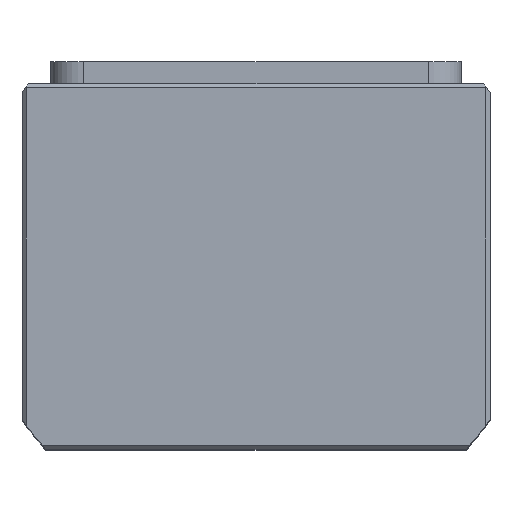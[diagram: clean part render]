
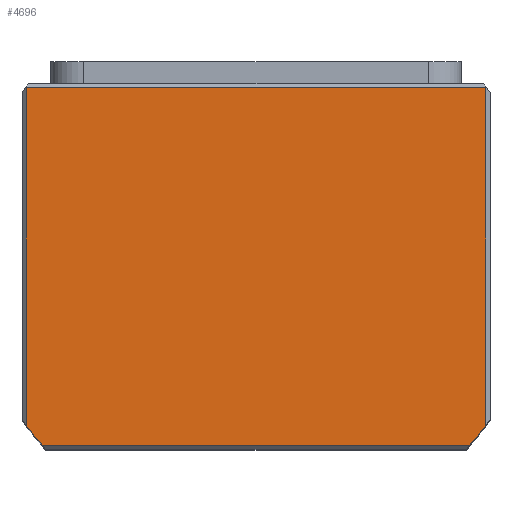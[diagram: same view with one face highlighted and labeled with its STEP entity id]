
A CAD part, top view. The second image highlights one B-rep face of the part: STEP entity #4696.
In plain terms, the highlighted planar face has unit normal (0, 0, 1) as drawn and (0, 0, -1) by its records, which use the part's own axes.
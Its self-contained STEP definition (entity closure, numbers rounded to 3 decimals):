
#332 = VECTOR ( 'NONE', #7430, 1000. ) ;
#1732 = CARTESIAN_POINT ( 'NONE',  ( 0., 43.5, 0. ) ) ;
#2113 = CARTESIAN_POINT ( 'NONE',  ( -56., 38.661, 0. ) ) ;
#2208 = LINE ( 'NONE', #11536, #16955 ) ;
#2774 = DIRECTION ( 'NONE',  ( 0., -1., 0. ) ) ;
#2791 = PLANE ( 'NONE',  #6032 ) ;
#2840 = VERTEX_POINT ( 'NONE', #9690 ) ;
#3012 = EDGE_CURVE ( 'NONE', #6577, #16547, #4170, .T. ) ;
#3303 = ORIENTED_EDGE ( 'NONE', *, *, #17306, .F. ) ;
#3381 = LINE ( 'NONE', #7137, #14142 ) ;
#4170 = LINE ( 'NONE', #7142, #11487 ) ;
#4182 = DIRECTION ( 'NONE',  ( -1., 0., 0. ) ) ;
#4275 = ORIENTED_EDGE ( 'NONE', *, *, #3012, .T. ) ;
#4435 = DIRECTION ( 'NONE',  ( 0., 1., 0. ) ) ;
#4696 = ADVANCED_FACE ( 'NONE', ( #6626 ), #2791, .F. ) ;
#5120 = DIRECTION ( 'NONE',  ( 0., 0., 1. ) ) ;
#5823 = ORIENTED_EDGE ( 'NONE', *, *, #13071, .F. ) ;
#6032 = AXIS2_PLACEMENT_3D ( 'NONE', #7223, #8685, #19048 ) ;
#6289 = DIRECTION ( 'NONE',  ( 0., 0., 1. ) ) ;
#6401 = VERTEX_POINT ( 'NONE', #2113 ) ;
#6577 = VERTEX_POINT ( 'NONE', #15581 ) ;
#6626 = FACE_OUTER_BOUND ( 'NONE', #9094, .T. ) ;
#7137 = CARTESIAN_POINT ( 'NONE',  ( 0., -43.5, 0. ) ) ;
#7142 = CARTESIAN_POINT ( 'NONE',  ( 56., 0., 0. ) ) ;
#7143 = CARTESIAN_POINT ( 'NONE',  ( -56., -43.5, 0. ) ) ;
#7170 = EDGE_CURVE ( 'NONE', #16547, #14359, #3381, .T. ) ;
#7223 = CARTESIAN_POINT ( 'NONE',  ( 0., 0., 0. ) ) ;
#7407 = AXIS2_PLACEMENT_3D ( 'NONE', #15074, #6289, #16585 ) ;
#7430 = DIRECTION ( 'NONE',  ( 1., 0., 0. ) ) ;
#8579 = CIRCLE ( 'NONE', #7407, 69.5 ) ;
#8685 = DIRECTION ( 'NONE',  ( 0., 0., 1. ) ) ;
#9094 = EDGE_LOOP ( 'NONE', ( #5823, #4275, #18747, #13101, #3303, #11926 ) ) ;
#9690 = CARTESIAN_POINT ( 'NONE',  ( -52.098, 43.5, 0. ) ) ;
#10069 = CARTESIAN_POINT ( 'NONE',  ( 52.098, 43.5, 0. ) ) ;
#10897 = CIRCLE ( 'NONE', #18375, 69.5 ) ;
#11487 = VECTOR ( 'NONE', #2774, 1000. ) ;
#11536 = CARTESIAN_POINT ( 'NONE',  ( -56., 0., 0. ) ) ;
#11699 = EDGE_CURVE ( 'NONE', #14359, #6401, #2208, .T. ) ;
#11926 = ORIENTED_EDGE ( 'NONE', *, *, #15343, .T. ) ;
#13071 = EDGE_CURVE ( 'NONE', #6577, #14560, #10897, .T. ) ;
#13101 = ORIENTED_EDGE ( 'NONE', *, *, #11699, .T. ) ;
#13882 = CARTESIAN_POINT ( 'NONE',  ( 0., -2.5, 0. ) ) ;
#14142 = VECTOR ( 'NONE', #4182, 1000. ) ;
#14359 = VERTEX_POINT ( 'NONE', #7143 ) ;
#14560 = VERTEX_POINT ( 'NONE', #10069 ) ;
#15074 = CARTESIAN_POINT ( 'NONE',  ( 0., -2.5, 0. ) ) ;
#15343 = EDGE_CURVE ( 'NONE', #2840, #14560, #16445, .T. ) ;
#15377 = DIRECTION ( 'NONE',  ( 1., 0., 0. ) ) ;
#15581 = CARTESIAN_POINT ( 'NONE',  ( 56., 38.661, 0. ) ) ;
#16445 = LINE ( 'NONE', #1732, #332 ) ;
#16547 = VERTEX_POINT ( 'NONE', #17117 ) ;
#16585 = DIRECTION ( 'NONE',  ( 1., 0., 0. ) ) ;
#16955 = VECTOR ( 'NONE', #4435, 1000. ) ;
#17117 = CARTESIAN_POINT ( 'NONE',  ( 56., -43.5, 0. ) ) ;
#17306 = EDGE_CURVE ( 'NONE', #2840, #6401, #8579, .T. ) ;
#18375 = AXIS2_PLACEMENT_3D ( 'NONE', #13882, #5120, #15377 ) ;
#18747 = ORIENTED_EDGE ( 'NONE', *, *, #7170, .T. ) ;
#19048 = DIRECTION ( 'NONE',  ( 1., 0., 0. ) ) ;
